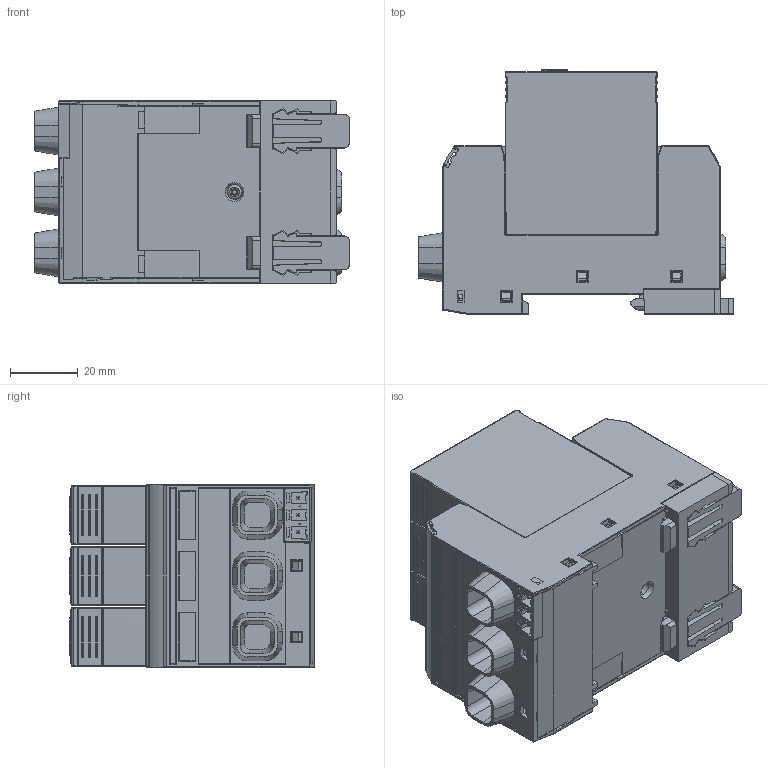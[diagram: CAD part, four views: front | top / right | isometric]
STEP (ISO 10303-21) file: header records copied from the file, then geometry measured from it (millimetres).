
FILE_DESCRIPTION( ( 'Unknown' ), '1' );
FILE_NAME( 'C:/Users/pdellaca/Desktop/Colombo 7P/7P_23_9_xxx_xxxx.stp', 'Unknown', ( 'Unknown' ), ( 'Unknown' ), 'PSStep 15.0.49', 'Unknown', ' ' );
FILE_SCHEMA( ( 'AUTOMOTIVE_DESIGN { 1 0 10303 214 1 1 1 1 }' ) );
Length unit declared in the file: millimetre
Products named in the file (37): top; 1
Bounding box: 93.05 x 72.11 x 53.8 mm (x, y, z)
Surface area: 56793.7 mm2 (no closed solid volume)
Topology: 0 solids, 1628 shells, 1628 faces, 8299 edges, 8212 vertices
Faces by surface type: plane 957, cylinder 438, torus 74, cone 57, sphere 48, bspline 36, revolution 18
Entity records: 96118 total; most frequent: CARTESIAN_POINT 21200, DIRECTION 12846, ORIENTED_EDGE 8204, EDGE_CURVE 8204, VERTEX_POINT 8204, LINE 5668, VECTOR 5668, AXIS2_PLACEMENT_3D 3580
